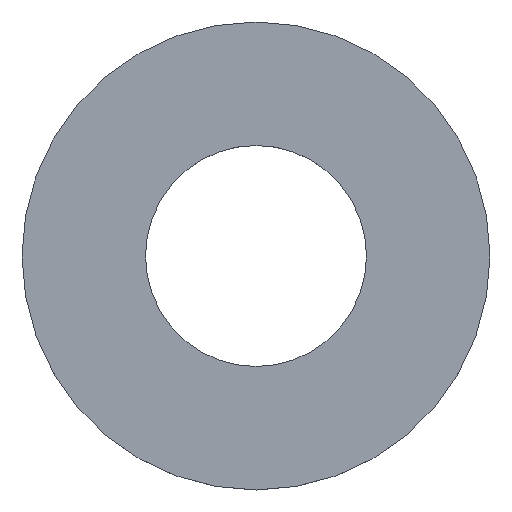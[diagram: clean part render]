
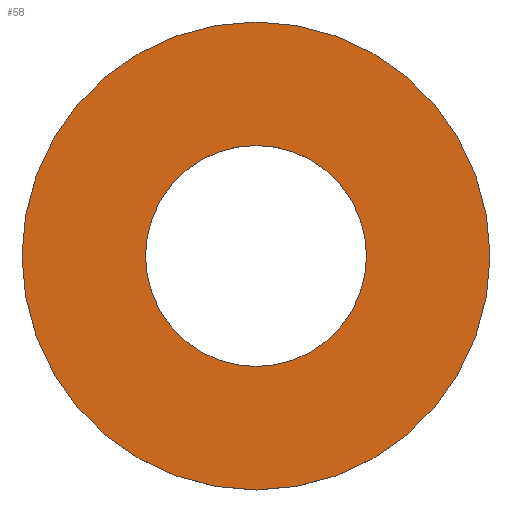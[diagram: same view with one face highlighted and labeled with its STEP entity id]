
A CAD part, top view. The second image highlights one B-rep face of the part: STEP entity #58.
In plain terms, the highlighted planar face has unit normal (0, 0, 1).
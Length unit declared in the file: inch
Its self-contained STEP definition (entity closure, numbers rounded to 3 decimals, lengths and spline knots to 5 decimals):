
#16=PLANE('',#68);
#20=FACE_BOUND('',#32,.T.);
#24=FACE_OUTER_BOUND('',#31,.T.);
#31=EDGE_LOOP('',(#51));
#32=EDGE_LOOP('',(#52));
#33=CIRCLE('',#62,1.0625);
#35=CIRCLE('',#65,2.25);
#37=VERTEX_POINT('',#89);
#39=VERTEX_POINT('',#94);
#41=EDGE_CURVE('',#37,#37,#33,.T.);
#43=EDGE_CURVE('',#39,#39,#35,.T.);
#51=ORIENTED_EDGE('',*,*,#43,.T.);
#52=ORIENTED_EDGE('',*,*,#41,.T.);
#58=ADVANCED_FACE('',(#24,#20),#16,.T.);
#62=AXIS2_PLACEMENT_3D('',#90,#73,#74);
#65=AXIS2_PLACEMENT_3D('',#95,#79,#80);
#68=AXIS2_PLACEMENT_3D('',#99,#85,#86);
#73=DIRECTION('center_axis',(0.,0.,-1.));
#74=DIRECTION('ref_axis',(-1.,0.,0.));
#79=DIRECTION('center_axis',(0.,0.,1.));
#80=DIRECTION('ref_axis',(-1.,0.,0.));
#85=DIRECTION('center_axis',(0.,0.,1.));
#86=DIRECTION('ref_axis',(1.,0.,0.));
#89=CARTESIAN_POINT('',(1.0625,0.,0.25));
#90=CARTESIAN_POINT('Origin',(0.,0.,0.25));
#94=CARTESIAN_POINT('',(2.25,0.,0.25));
#95=CARTESIAN_POINT('Origin',(0.,0.,0.25));
#99=CARTESIAN_POINT('Origin',(0.,0.,0.25));
